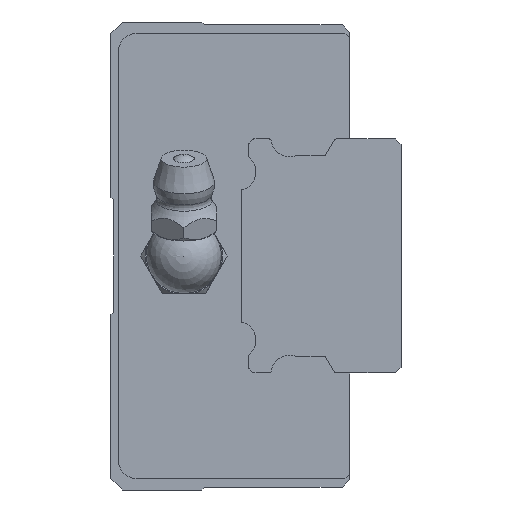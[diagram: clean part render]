
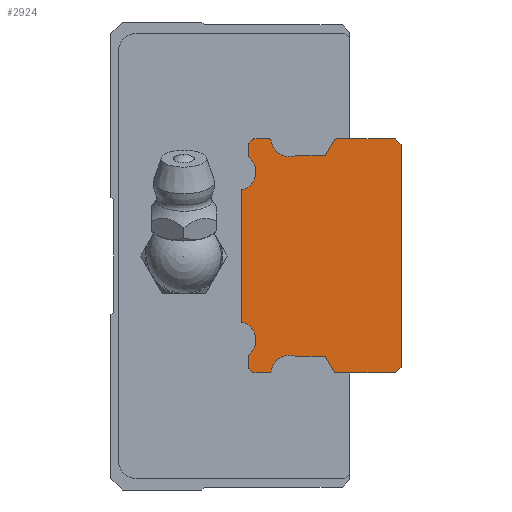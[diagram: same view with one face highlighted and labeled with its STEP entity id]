
A CAD part, left-side view. The second image highlights one B-rep face of the part: STEP entity #2924.
In plain terms, the highlighted planar face has unit normal (-1, 0, 0).
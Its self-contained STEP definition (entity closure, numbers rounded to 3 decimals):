
#99=CIRCLE('',#3114,0.2);
#101=CIRCLE('',#3117,2.);
#103=CIRCLE('',#3121,0.3);
#105=CIRCLE('',#3125,0.3);
#113=CIRCLE('',#3139,0.3);
#115=CIRCLE('',#3143,0.3);
#117=CIRCLE('',#3147,2.);
#119=CIRCLE('',#3150,0.2);
#121=CIRCLE('',#3154,0.2);
#123=CIRCLE('',#3158,0.2);
#125=CIRCLE('',#3162,2.);
#133=CIRCLE('',#3172,2.);
#135=CIRCLE('',#3176,0.2);
#137=CIRCLE('',#3180,0.2);
#462=ORIENTED_EDGE('',*,*,#1108,.F.);
#463=ORIENTED_EDGE('',*,*,#1208,.F.);
#464=ORIENTED_EDGE('',*,*,#1205,.F.);
#465=ORIENTED_EDGE('',*,*,#1202,.F.);
#466=ORIENTED_EDGE('',*,*,#1199,.F.);
#467=ORIENTED_EDGE('',*,*,#1196,.T.);
#468=ORIENTED_EDGE('',*,*,#1193,.F.);
#469=ORIENTED_EDGE('',*,*,#1184,.T.);
#470=ORIENTED_EDGE('',*,*,#1181,.F.);
#471=ORIENTED_EDGE('',*,*,#1178,.F.);
#472=ORIENTED_EDGE('',*,*,#1175,.F.);
#473=ORIENTED_EDGE('',*,*,#1172,.F.);
#474=ORIENTED_EDGE('',*,*,#1169,.F.);
#475=ORIENTED_EDGE('',*,*,#1166,.F.);
#476=ORIENTED_EDGE('',*,*,#1163,.T.);
#477=ORIENTED_EDGE('',*,*,#1160,.F.);
#478=ORIENTED_EDGE('',*,*,#1157,.T.);
#479=ORIENTED_EDGE('',*,*,#1154,.F.);
#480=ORIENTED_EDGE('',*,*,#1151,.F.);
#481=ORIENTED_EDGE('',*,*,#1148,.F.);
#482=ORIENTED_EDGE('',*,*,#1145,.F.);
#483=ORIENTED_EDGE('',*,*,#1142,.F.);
#484=ORIENTED_EDGE('',*,*,#1133,.F.);
#485=ORIENTED_EDGE('',*,*,#1130,.F.);
#486=ORIENTED_EDGE('',*,*,#1127,.F.);
#487=ORIENTED_EDGE('',*,*,#1124,.F.);
#488=ORIENTED_EDGE('',*,*,#1121,.T.);
#489=ORIENTED_EDGE('',*,*,#1118,.F.);
#490=ORIENTED_EDGE('',*,*,#1115,.T.);
#491=ORIENTED_EDGE('',*,*,#1112,.F.);
#1108=EDGE_CURVE('',#1512,#1513,#1809,.T.);
#1112=EDGE_CURVE('',#1513,#1516,#99,.T.);
#1115=EDGE_CURVE('',#1518,#1516,#101,.T.);
#1118=EDGE_CURVE('',#1518,#1520,#1815,.T.);
#1121=EDGE_CURVE('',#1522,#1520,#103,.T.);
#1124=EDGE_CURVE('',#1522,#1524,#1819,.T.);
#1127=EDGE_CURVE('',#1524,#1526,#105,.T.);
#1130=EDGE_CURVE('',#1526,#1528,#1823,.T.);
#1133=EDGE_CURVE('',#1528,#1530,#1826,.T.);
#1142=EDGE_CURVE('',#1530,#1538,#1829,.T.);
#1145=EDGE_CURVE('',#1538,#1540,#1832,.T.);
#1148=EDGE_CURVE('',#1540,#1542,#1835,.T.);
#1151=EDGE_CURVE('',#1542,#1544,#113,.T.);
#1154=EDGE_CURVE('',#1544,#1546,#1839,.T.);
#1157=EDGE_CURVE('',#1548,#1546,#115,.T.);
#1160=EDGE_CURVE('',#1548,#1550,#1843,.T.);
#1163=EDGE_CURVE('',#1552,#1550,#117,.T.);
#1166=EDGE_CURVE('',#1552,#1554,#119,.T.);
#1169=EDGE_CURVE('',#1554,#1556,#1848,.T.);
#1172=EDGE_CURVE('',#1556,#1558,#121,.T.);
#1175=EDGE_CURVE('',#1558,#1560,#1852,.T.);
#1178=EDGE_CURVE('',#1560,#1562,#123,.T.);
#1181=EDGE_CURVE('',#1562,#1564,#1856,.T.);
#1184=EDGE_CURVE('',#1566,#1564,#125,.T.);
#1193=EDGE_CURVE('',#1566,#1574,#1860,.T.);
#1196=EDGE_CURVE('',#1576,#1574,#133,.T.);
#1199=EDGE_CURVE('',#1576,#1578,#1864,.T.);
#1202=EDGE_CURVE('',#1578,#1580,#135,.T.);
#1205=EDGE_CURVE('',#1580,#1582,#1868,.T.);
#1208=EDGE_CURVE('',#1582,#1512,#137,.T.);
#1512=VERTEX_POINT('',#4340);
#1513=VERTEX_POINT('',#4341);
#1516=VERTEX_POINT('',#4349);
#1518=VERTEX_POINT('',#4355);
#1520=VERTEX_POINT('',#4361);
#1522=VERTEX_POINT('',#4367);
#1524=VERTEX_POINT('',#4373);
#1526=VERTEX_POINT('',#4379);
#1528=VERTEX_POINT('',#4385);
#1530=VERTEX_POINT('',#4391);
#1538=VERTEX_POINT('',#4409);
#1540=VERTEX_POINT('',#4415);
#1542=VERTEX_POINT('',#4421);
#1544=VERTEX_POINT('',#4427);
#1546=VERTEX_POINT('',#4433);
#1548=VERTEX_POINT('',#4439);
#1550=VERTEX_POINT('',#4445);
#1552=VERTEX_POINT('',#4451);
#1554=VERTEX_POINT('',#4457);
#1556=VERTEX_POINT('',#4463);
#1558=VERTEX_POINT('',#4469);
#1560=VERTEX_POINT('',#4475);
#1562=VERTEX_POINT('',#4481);
#1564=VERTEX_POINT('',#4487);
#1566=VERTEX_POINT('',#4493);
#1574=VERTEX_POINT('',#4511);
#1576=VERTEX_POINT('',#4517);
#1578=VERTEX_POINT('',#4523);
#1580=VERTEX_POINT('',#4529);
#1582=VERTEX_POINT('',#4535);
#1809=LINE('',#4339,#2045);
#1815=LINE('',#4360,#2051);
#1819=LINE('',#4372,#2055);
#1823=LINE('',#4384,#2059);
#1826=LINE('',#4390,#2062);
#1829=LINE('',#4408,#2065);
#1832=LINE('',#4414,#2068);
#1835=LINE('',#4420,#2071);
#1839=LINE('',#4432,#2075);
#1843=LINE('',#4444,#2079);
#1848=LINE('',#4462,#2084);
#1852=LINE('',#4474,#2088);
#1856=LINE('',#4486,#2092);
#1860=LINE('',#4510,#2096);
#1864=LINE('',#4522,#2100);
#1868=LINE('',#4534,#2104);
#2045=VECTOR('',#3445,1000.);
#2051=VECTOR('',#3465,1000.);
#2055=VECTOR('',#3477,1000.);
#2059=VECTOR('',#3489,1000.);
#2062=VECTOR('',#3494,1000.);
#2065=VECTOR('',#3511,1000.);
#2068=VECTOR('',#3516,1000.);
#2071=VECTOR('',#3521,1000.);
#2075=VECTOR('',#3533,1000.);
#2079=VECTOR('',#3545,1000.);
#2084=VECTOR('',#3564,1000.);
#2088=VECTOR('',#3576,1000.);
#2092=VECTOR('',#3588,1000.);
#2096=VECTOR('',#3612,1000.);
#2100=VECTOR('',#3624,1000.);
#2104=VECTOR('',#3636,1000.);
#2324=EDGE_LOOP('',(#462,#463,#464,#465,#466,#467,#468,#469,#470,#471,#472,
#473,#474,#475,#476,#477,#478,#479,#480,#481,#482,#483,#484,#485,#486,#487,
#488,#489,#490,#491));
#2579=FACE_BOUND('',#2324,.T.);
#2816=PLANE('',#3183);
#2924=ADVANCED_FACE('',(#2579),#2816,.F.);
#3114=AXIS2_PLACEMENT_3D('',#4348,#3451,#3452);
#3117=AXIS2_PLACEMENT_3D('',#4354,#3458,#3459);
#3121=AXIS2_PLACEMENT_3D('',#4366,#3470,#3471);
#3125=AXIS2_PLACEMENT_3D('',#4378,#3482,#3483);
#3139=AXIS2_PLACEMENT_3D('',#4426,#3526,#3527);
#3143=AXIS2_PLACEMENT_3D('',#4438,#3538,#3539);
#3147=AXIS2_PLACEMENT_3D('',#4450,#3550,#3551);
#3150=AXIS2_PLACEMENT_3D('',#4456,#3557,#3558);
#3154=AXIS2_PLACEMENT_3D('',#4468,#3569,#3570);
#3158=AXIS2_PLACEMENT_3D('',#4480,#3581,#3582);
#3162=AXIS2_PLACEMENT_3D('',#4492,#3593,#3594);
#3172=AXIS2_PLACEMENT_3D('',#4516,#3617,#3618);
#3176=AXIS2_PLACEMENT_3D('',#4528,#3629,#3630);
#3180=AXIS2_PLACEMENT_3D('',#4540,#3641,#3642);
#3183=AXIS2_PLACEMENT_3D('',#4543,#3647,#3648);
#3445=DIRECTION('',(0.,-1.,0.));
#3451=DIRECTION('',(1.,0.,0.));
#3452=DIRECTION('',(0.,0.,-1.));
#3458=DIRECTION('',(1.,0.,0.));
#3459=DIRECTION('',(0.,0.,-1.));
#3465=DIRECTION('',(0.,-1.,0.));
#3470=DIRECTION('',(1.,0.,0.));
#3471=DIRECTION('',(0.,0.,-1.));
#3477=DIRECTION('',(0.,-0.506,0.862));
#3482=DIRECTION('',(1.,0.,0.));
#3483=DIRECTION('',(0.,0.,-1.));
#3489=DIRECTION('',(0.,-1.,0.));
#3494=DIRECTION('',(0.,-0.707,-0.707));
#3511=DIRECTION('',(0.,0.,-1.));
#3516=DIRECTION('',(0.,0.707,-0.707));
#3521=DIRECTION('',(0.,1.,0.));
#3526=DIRECTION('',(1.,0.,0.));
#3527=DIRECTION('',(0.,0.,-1.));
#3533=DIRECTION('',(0.,0.506,0.862));
#3538=DIRECTION('',(1.,0.,0.));
#3539=DIRECTION('',(0.,0.,-1.));
#3545=DIRECTION('',(0.,1.,0.));
#3550=DIRECTION('',(1.,0.,0.));
#3551=DIRECTION('',(0.,0.,-1.));
#3557=DIRECTION('',(1.,0.,0.));
#3558=DIRECTION('',(0.,0.,-1.));
#3564=DIRECTION('',(0.,1.,0.));
#3569=DIRECTION('',(1.,0.,0.));
#3570=DIRECTION('',(0.,0.,-1.));
#3576=DIRECTION('',(0.,0.707,0.707));
#3581=DIRECTION('',(1.,0.,0.));
#3582=DIRECTION('',(0.,0.,-1.));
#3588=DIRECTION('',(0.,0.,1.));
#3593=DIRECTION('',(1.,0.,0.));
#3594=DIRECTION('',(0.,0.,-1.));
#3612=DIRECTION('',(0.,0.,1.));
#3617=DIRECTION('',(1.,0.,0.));
#3618=DIRECTION('',(0.,0.,-1.));
#3624=DIRECTION('',(0.,0.,1.));
#3629=DIRECTION('',(1.,0.,0.));
#3630=DIRECTION('',(0.,0.,-1.));
#3636=DIRECTION('',(0.,-0.707,0.707));
#3641=DIRECTION('',(1.,0.,0.));
#3642=DIRECTION('',(0.,0.,-1.));
#3647=DIRECTION('',(1.,0.,0.));
#3648=DIRECTION('',(0.,0.,-1.));
#4339=CARTESIAN_POINT('',(-15.,15.717,12.5));
#4340=CARTESIAN_POINT('',(-15.,15.717,12.5));
#4341=CARTESIAN_POINT('',(-15.,14.079,12.5));
#4348=CARTESIAN_POINT('',(-15.,14.079,12.3));
#4349=CARTESIAN_POINT('',(-15.,13.881,12.327));
#4354=CARTESIAN_POINT('',(-15.,11.9,12.6));
#4355=CARTESIAN_POINT('',(-15.,11.276,10.7));
#4360=CARTESIAN_POINT('',(-15.,11.276,10.7));
#4361=CARTESIAN_POINT('',(-15.,8.3,10.7));
#4366=CARTESIAN_POINT('',(-15.,8.3,11.));
#4367=CARTESIAN_POINT('',(-15.,8.041,10.848));
#4372=CARTESIAN_POINT('',(-15.,8.041,10.848));
#4373=CARTESIAN_POINT('',(-15.,7.159,12.352));
#4378=CARTESIAN_POINT('',(-15.,6.9,12.2));
#4379=CARTESIAN_POINT('',(-15.,6.9,12.5));
#4384=CARTESIAN_POINT('',(-15.,6.9,12.5));
#4385=CARTESIAN_POINT('',(-15.,0.6,12.5));
#4390=CARTESIAN_POINT('',(-15.,0.6,12.5));
#4391=CARTESIAN_POINT('',(-15.,0.,11.9));
#4408=CARTESIAN_POINT('',(-15.,0.,11.9));
#4409=CARTESIAN_POINT('',(-15.,0.,-11.9));
#4414=CARTESIAN_POINT('',(-15.,0.,-11.9));
#4415=CARTESIAN_POINT('',(-15.,0.6,-12.5));
#4420=CARTESIAN_POINT('',(-15.,0.6,-12.5));
#4421=CARTESIAN_POINT('',(-15.,6.9,-12.5));
#4426=CARTESIAN_POINT('',(-15.,6.9,-12.2));
#4427=CARTESIAN_POINT('',(-15.,7.159,-12.352));
#4432=CARTESIAN_POINT('',(-15.,7.159,-12.352));
#4433=CARTESIAN_POINT('',(-15.,8.041,-10.848));
#4438=CARTESIAN_POINT('',(-15.,8.3,-11.));
#4439=CARTESIAN_POINT('',(-15.,8.3,-10.7));
#4444=CARTESIAN_POINT('',(-15.,8.3,-10.7));
#4445=CARTESIAN_POINT('',(-15.,11.276,-10.7));
#4450=CARTESIAN_POINT('',(-15.,11.9,-12.6));
#4451=CARTESIAN_POINT('',(-15.,13.881,-12.327));
#4456=CARTESIAN_POINT('',(-15.,14.079,-12.3));
#4457=CARTESIAN_POINT('',(-15.,14.079,-12.5));
#4462=CARTESIAN_POINT('',(-15.,14.079,-12.5));
#4463=CARTESIAN_POINT('',(-15.,15.717,-12.5));
#4468=CARTESIAN_POINT('',(-15.,15.717,-12.3));
#4469=CARTESIAN_POINT('',(-15.,15.859,-12.441));
#4474=CARTESIAN_POINT('',(-15.,15.859,-12.441));
#4475=CARTESIAN_POINT('',(-15.,16.241,-12.059));
#4480=CARTESIAN_POINT('',(-15.,16.1,-11.917));
#4481=CARTESIAN_POINT('',(-15.,16.3,-11.917));
#4486=CARTESIAN_POINT('',(-15.,16.3,-11.917));
#4487=CARTESIAN_POINT('',(-15.,16.3,-10.6));
#4492=CARTESIAN_POINT('',(-15.,17.5,-9.));
#4493=CARTESIAN_POINT('',(-15.,17.,-7.064));
#4510=CARTESIAN_POINT('',(-15.,17.,-7.064));
#4511=CARTESIAN_POINT('',(-15.,17.,7.064));
#4516=CARTESIAN_POINT('',(-15.,17.5,9.));
#4517=CARTESIAN_POINT('',(-15.,16.3,10.6));
#4522=CARTESIAN_POINT('',(-15.,16.3,10.6));
#4523=CARTESIAN_POINT('',(-15.,16.3,11.917));
#4528=CARTESIAN_POINT('',(-15.,16.1,11.917));
#4529=CARTESIAN_POINT('',(-15.,16.241,12.059));
#4534=CARTESIAN_POINT('',(-15.,16.241,12.059));
#4535=CARTESIAN_POINT('',(-15.,15.859,12.441));
#4540=CARTESIAN_POINT('',(-15.,15.717,12.3));
#4543=CARTESIAN_POINT('',(-15.,14.079,12.3));
